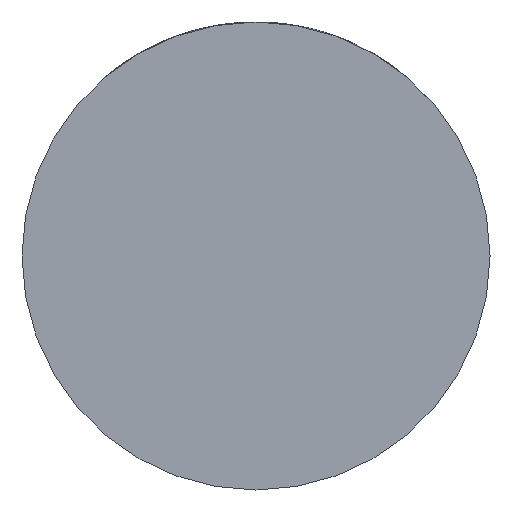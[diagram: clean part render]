
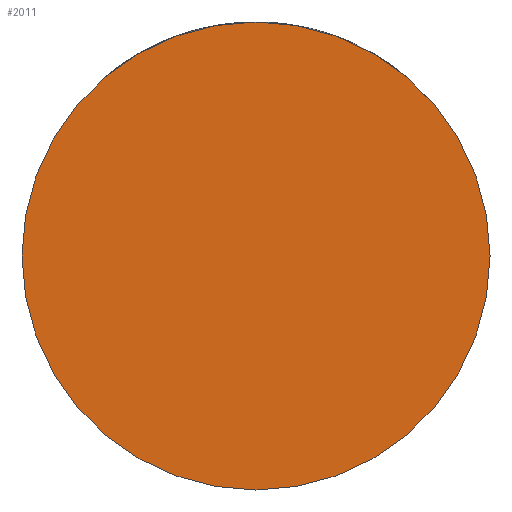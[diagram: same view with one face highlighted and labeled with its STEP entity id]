
A CAD part, front view. The second image highlights one B-rep face of the part: STEP entity #2011.
In plain terms, the highlighted planar face has unit normal (0, -1, 0).
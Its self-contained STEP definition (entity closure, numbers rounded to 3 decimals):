
#45 = CARTESIAN_POINT ( 'NONE',  ( -29.5, -33., 0. ) ) ;
#216 = CARTESIAN_POINT ( 'NONE',  ( 29.5, -33., 0. ) ) ;
#343 = DIRECTION ( 'NONE',  ( 0., -1., 0. ) ) ;
#370 = AXIS2_PLACEMENT_3D ( 'NONE', #1032, #343, #1055 ) ;
#503 = VERTEX_POINT ( 'NONE', #216 ) ;
#615 = DIRECTION ( 'NONE',  ( 1., 0., 0. ) ) ;
#715 = ORIENTED_EDGE ( 'NONE', *, *, #1351, .T. ) ;
#1032 = CARTESIAN_POINT ( 'NONE',  ( 0., -33., 0. ) ) ;
#1055 = DIRECTION ( 'NONE',  ( 1., 0., 0. ) ) ;
#1351 = EDGE_CURVE ( 'NONE', #503, #2506, #4260, .T. ) ;
#1523 = ORIENTED_EDGE ( 'NONE', *, *, #3992, .T. ) ;
#1572 = CARTESIAN_POINT ( 'NONE',  ( 0., -33., 0. ) ) ;
#1746 = PLANE ( 'NONE',  #370 ) ;
#1921 = CIRCLE ( 'NONE', #3383, 29.5 ) ;
#2011 = ADVANCED_FACE ( 'NONE', ( #3182 ), #1746, .T. ) ;
#2506 = VERTEX_POINT ( 'NONE', #45 ) ;
#3182 = FACE_OUTER_BOUND ( 'NONE', #3658, .T. ) ;
#3383 = AXIS2_PLACEMENT_3D ( 'NONE', #3765, #4431, #615 ) ;
#3658 = EDGE_LOOP ( 'NONE', ( #1523, #715 ) ) ;
#3735 = DIRECTION ( 'NONE',  ( 0., -1., 0. ) ) ;
#3765 = CARTESIAN_POINT ( 'NONE',  ( 0., -33., 0. ) ) ;
#3992 = EDGE_CURVE ( 'NONE', #2506, #503, #1921, .T. ) ;
#4260 = CIRCLE ( 'NONE', #4333, 29.5 ) ;
#4333 = AXIS2_PLACEMENT_3D ( 'NONE', #1572, #3735, #4400 ) ;
#4400 = DIRECTION ( 'NONE',  ( 1., 0., 0. ) ) ;
#4431 = DIRECTION ( 'NONE',  ( 0., -1., 0. ) ) ;
